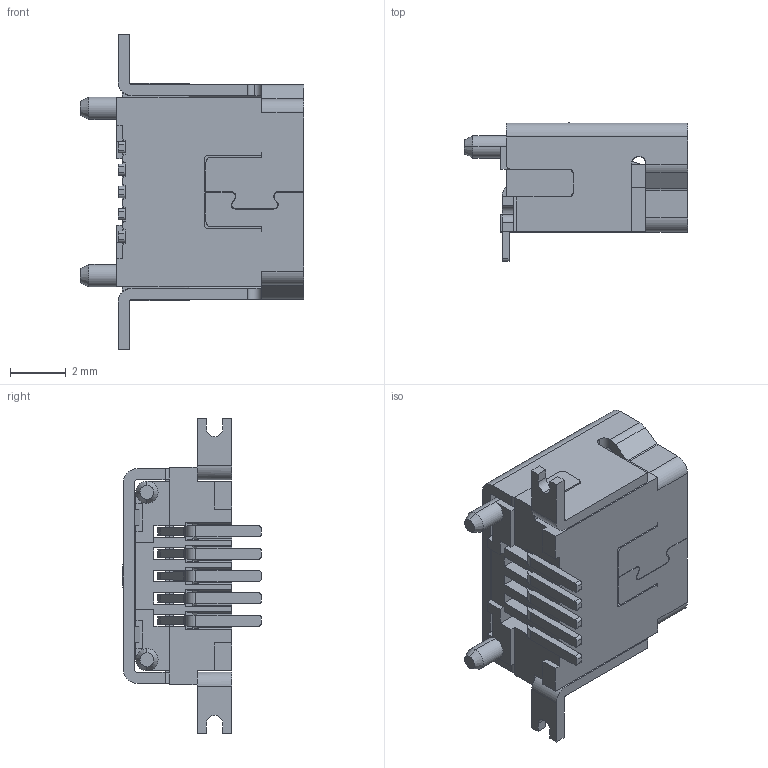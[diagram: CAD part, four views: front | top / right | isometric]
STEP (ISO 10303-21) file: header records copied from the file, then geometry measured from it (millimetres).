
FILE_DESCRIPTION (( 'STEP AP214' ), '1' );
FILE_NAME ('MINI-USB-BF-180僅傻极傖こ.STEP', '2021-01-21T06:28:34', ( '' ), ( '' ), 'SwSTEP 2.0', 'SolidWorks 2018', '' );
FILE_SCHEMA (( 'AUTOMOTIVE_DESIGN' ));
Length unit declared in the file: millimetre
Products named in the file (1): MINI-USB-BF-180僅傻极傖こ
Bounding box: 8 x 4.97 x 11.3 mm (x, y, z)
Volume: 106.4 mm3; surface area: 535.2 mm2
Topology: 1 solids, 11 shells, 726 faces, 2029 edges, 1276 vertices
Faces by surface type: plane 488, cylinder 176, bspline 50, cone 12
Entity records: 23442 total; most frequent: CARTESIAN_POINT 5057, ORIENTED_EDGE 4058, DIRECTION 3513, EDGE_CURVE 2029, LINE 1509, VECTOR 1509, VERTEX_POINT 1276, AXIS2_PLACEMENT_3D 1002
